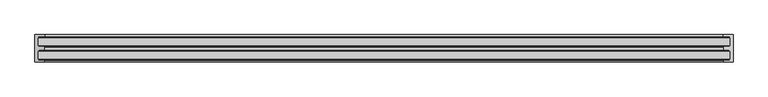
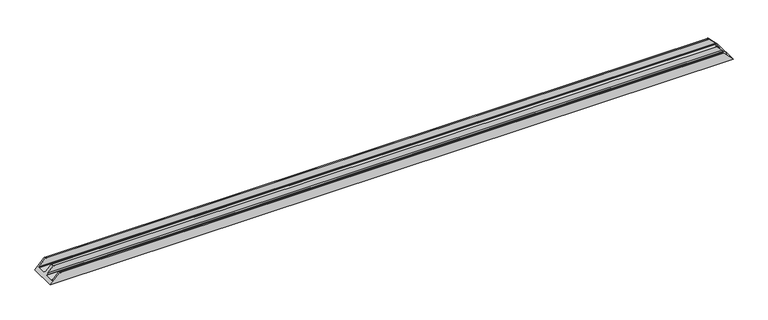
"""IFC4 building model written with IfcOpenShell, lengths in millimetres: proxy geometry, Weiku - Montante - Caixilho duplo 02.3.02.409 : Weiku - Montante - Caixilho duplo 02.3.02.409."""

from ifc_helpers import new_model, si_unit, frame, origin, place, context, project, spatial, ellipse_curve, source, transform, mapped, element, save
from ifc_brep_helpers import plane_surface, cylinder_surface, advanced_brep


def generic_models_4b76f5d9(model_context):
    return source(origin(), model_context, "Body", "AdvancedBrep", [
        advanced_brep(
        [(-1977.8, 9.8, 18.2), (-1940.1, 9.8, 55.9), (1940.1, 9.8, 55.9), (1977.8, 9.8, 18.2), (-1980.3000079, 63.85, 15.6999921), (-1980.3000079, 15.05, 15.6999921), (1980.3000079, 15.05, 15.6999921), (1980.3000079, 63.85, 15.6999921), (-1940.1000055, 69.1, 55.8999945), (-1972.1700642, 69.1, 23.8299358), (1972.1700642, 69.1, 23.8299358), (1940.1000055, 69.1, 55.8999945), (-1939.6000055, 86.65, 56.3999945), (-1939.6000055, 69.6, 56.3999945), (1939.6000055, 69.6, 56.3999945), (1939.6000055, 86.65, 56.3999945), (-1972.2236827, 87.15, 23.7763173), (-1940.1000055, 87.15, 55.8999945), (1940.1000055, 87.15, 55.8999945), (1972.2236827, 87.15, 23.7763173), (-1996.0, 156.2000166, 0.0), (1996.0, 156.2000166, 0.0), (1996.0, 0.0, 0.0), (-1996.0, 0.0, 0.0), (1940.1, 0.0, 55.9), (-1940.1, 0.0, 55.9), (-1939.6, 9.3, 56.4), (-1939.6, 0.5, 56.4), (1939.6, 0.5, 56.4), (1939.6, 9.3, 56.4), (-1977.8, 15.05, 18.2), (-1977.8, 63.85, 18.2), (-1977.8000178, 92.3500166, 18.1999822), (-1980.3000079, 92.3500166, 15.6999921), (-1980.3000079, 141.1500166, 15.6999921), (-1977.8, 141.1500166, 18.2), (-1977.8, 146.4000166, 18.2), (-1940.1, 146.4000166, 55.9), (-1939.6, 146.9000166, 56.4), (-1939.6, 155.7000166, 56.4), (-1940.1, 156.2000166, 55.9), (1940.1, 156.2000166, 55.9), (1939.6, 155.7000166, 56.4), (1939.6, 146.9000166, 56.4), (1940.1, 146.4000166, 55.9), (1977.8, 146.4000166, 18.2), (1977.8, 141.1500166, 18.2), (1980.3000079, 141.1500166, 15.6999921), (1980.3000079, 92.3500166, 15.6999921), (1977.8000178, 92.3500166, 18.1999822), (1977.8, 63.85, 18.2), (1977.8, 15.05, 18.2)],
        [
            (0, 1),
            (1, 2),
            (2, 3),
            (3, 0),
            (4, 5),
            (5, 6),
            (6, 7),
            (7, 4),
            (8, 9),
            (9, 10),
            (10, 11),
            (11, 8),
            (12, 13),
            (13, 14),
            (14, 15),
            (15, 12),
            (16, 17),
            (17, 18),
            (18, 19),
            (19, 16),
            (20, 21),
            (21, 22),
            (22, 23),
            (23, 20),
            (22, 24),
            (24, 25),
            (25, 23),
            (26, 27),
            (27, 28),
            (28, 29),
            (29, 26),
            (0, 30),
            (30, 5),
            (4, 31),
            (31, 9),
            (8, 13, ellipse_curve(frame((-1940.1000055, 69.6, 55.8999945), z_axis=(-0.7071067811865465, 0.0, 0.7071067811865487), x_axis=(-0.7071067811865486, 0.0, -0.7071067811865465)), 0.7071068, 0.5)),
            (12, 17, ellipse_curve(frame((-1940.1000055, 86.65, 55.8999945), z_axis=(-0.7071067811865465, 0.0, 0.7071067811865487), x_axis=(-0.7071067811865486, 0.0, -0.7071067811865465)), 0.7071068, 0.5)),
            (16, 32),
            (32, 33),
            (33, 34),
            (34, 35),
            (35, 36),
            (36, 37),
            (37, 38, ellipse_curve(frame((-1940.1, 146.9000166, 55.9), z_axis=(-0.7071067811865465, 0.0, 0.7071067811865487), x_axis=(-0.7071067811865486, 0.0, -0.7071067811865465)), 0.7071068, 0.5)),
            (38, 39),
            (39, 40, ellipse_curve(frame((-1940.1, 155.7000166, 55.9), z_axis=(-0.7071067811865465, 0.0, 0.7071067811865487), x_axis=(-0.7071067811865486, 0.0, -0.7071067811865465)), 0.7071068, 0.5)),
            (40, 20),
            (25, 27, ellipse_curve(frame((-1940.1, 0.5, 55.9), z_axis=(-0.7071067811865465, 0.0, 0.7071067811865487), x_axis=(-0.7071067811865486, 0.0, -0.7071067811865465)), 0.7071068, 0.5)),
            (26, 1, ellipse_curve(frame((-1940.1, 9.3, 55.9), z_axis=(-0.7071067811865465, 0.0, 0.7071067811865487), x_axis=(-0.7071067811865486, 0.0, -0.7071067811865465)), 0.7071068, 0.5)),
            (2, 29, ellipse_curve(frame((1940.1, 9.3, 55.9), z_axis=(0.7071067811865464, 0.0, 0.7071067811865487), x_axis=(-0.7071067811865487, 0.0, 0.7071067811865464)), 0.7071068, 0.5)),
            (28, 24, ellipse_curve(frame((1940.1, 0.5, 55.9), z_axis=(0.7071067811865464, 0.0, 0.7071067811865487), x_axis=(-0.7071067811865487, 0.0, 0.7071067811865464)), 0.7071068, 0.5)),
            (21, 41),
            (41, 42, ellipse_curve(frame((1940.1, 155.7000166, 55.9), z_axis=(0.7071067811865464, 0.0, 0.7071067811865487), x_axis=(-0.7071067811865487, 0.0, 0.7071067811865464)), 0.7071068, 0.5)),
            (42, 43),
            (43, 44, ellipse_curve(frame((1940.1, 146.9000166, 55.9), z_axis=(0.7071067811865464, 0.0, 0.7071067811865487), x_axis=(-0.7071067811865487, 0.0, 0.7071067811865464)), 0.7071068, 0.5)),
            (44, 45),
            (45, 46),
            (46, 47),
            (47, 48),
            (48, 49),
            (49, 19),
            (18, 15, ellipse_curve(frame((1940.1000055, 86.65, 55.8999945), z_axis=(0.7071067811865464, 0.0, 0.7071067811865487), x_axis=(-0.7071067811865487, 0.0, 0.7071067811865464)), 0.7071068, 0.5)),
            (14, 11, ellipse_curve(frame((1940.1000055, 69.6, 55.8999945), z_axis=(0.7071067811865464, 0.0, 0.7071067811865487), x_axis=(-0.7071067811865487, 0.0, 0.7071067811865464)), 0.7071068, 0.5)),
            (10, 50),
            (50, 7),
            (6, 51),
            (51, 3),
            (51, 30),
            (50, 31),
            (49, 32),
            (48, 33),
            (47, 34),
            (46, 35),
            (45, 36),
            (44, 37),
            (38, 43),
            (42, 39),
            (41, 40),
        ],
        [
            plane_surface(frame((-1996.0, 9.8, 55.9), z_axis=(0.0, 1.0, 0.0), x_axis=(1.0, 0.0, 0.0))),
            plane_surface(frame((-1996.0, 15.05, 15.6999921), z_axis=(0.0, 0.0, 1.0), x_axis=(1.0, 0.0, 0.0))),
            plane_surface(frame((-1996.0, 69.1, 23.8299358), z_axis=(0.0, -1.0, 0.0), x_axis=(1.0, 0.0, 0.0))),
            plane_surface(frame((-1996.0, 69.6, 56.3999945), z_axis=(0.0, 0.0, 1.0), x_axis=(1.0, 0.0, 0.0))),
            plane_surface(frame((-1996.0, 87.15, 55.8999945), z_axis=(0.0, 1.0, 0.0), x_axis=(1.0, 0.0, 0.0))),
            plane_surface(frame((-1996.0, 156.2000166, 0.0), z_axis=(0.0, 0.0, -1.0), x_axis=(1.0, 0.0, 0.0))),
            plane_surface(frame((-1996.0, 0.0, 0.0), z_axis=(0.0, -1.0, 0.0), x_axis=(1.0, 0.0, 0.0))),
            plane_surface(frame((-1996.0, 0.5, 56.4), z_axis=(0.0, 0.0, 1.0), x_axis=(1.0, 0.0, 0.0))),
            plane_surface(frame((-1996.0, 0.0, 0.0), z_axis=(-0.7071067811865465, 0.0, 0.7071067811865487), x_axis=(0.0, 1.0, 0.0))),
            plane_surface(frame((1936.0, 0.0, 60.0), z_axis=(0.7071067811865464, 0.0, 0.7071067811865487), x_axis=(0.0, 1.0, 0.0))),
            plane_surface(frame((-1996.0, 9.8, 18.2), z_axis=(0.0, 0.0, 1.0), x_axis=(1.0, 0.0, 0.0))),
            plane_surface(frame((-1996.0, 15.05, 18.2), z_axis=(0.0, 1.0, 0.0), x_axis=(1.0, 0.0, 0.0))),
            plane_surface(frame((-1996.0, 63.85, 15.6999921), z_axis=(0.0, -1.0, 0.0), x_axis=(1.0, 0.0, 0.0))),
            plane_surface(frame((-1996.0, 63.85, 18.2), z_axis=(0.0, -0.7313537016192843, 0.6819983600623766), x_axis=(1.0, 0.0, 0.0))),
            cylinder_surface(frame((-1996.0, 86.65, 55.8999945), z_axis=(-1.0, 0.0, 0.0), x_axis=(0.0, 1.0, 0.0)), 0.5),
            cylinder_surface(frame((-1996.0, 0.5, 55.9), z_axis=(-1.0, 0.0, 0.0), x_axis=(0.0, 1.0, 0.0)), 0.5),
            plane_surface(frame((-1996.0, 87.15, 23.7763173), z_axis=(0.0, 0.7313537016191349, 0.6819983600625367), x_axis=(1.0, 0.0, 0.0))),
            plane_surface(frame((-1996.0, 92.3500166, 18.1999822), z_axis=(0.0, 1.0, 0.0), x_axis=(1.0, 0.0, 0.0))),
            plane_surface(frame((-1996.0, 92.3500166, 15.6999921), z_axis=(0.0, 0.0, 1.0), x_axis=(1.0, 0.0, 0.0))),
            plane_surface(frame((-1996.0, 141.1500166, 15.6999921), z_axis=(0.0, -1.0, 0.0), x_axis=(1.0, 0.0, 0.0))),
            plane_surface(frame((-1996.0, 141.1500166, 18.2), z_axis=(0.0, 0.0, 1.0), x_axis=(1.0, 0.0, 0.0))),
            plane_surface(frame((-1996.0, 146.4000166, 18.2), z_axis=(0.0, -1.0, 0.0), x_axis=(1.0, 0.0, 0.0))),
            plane_surface(frame((-1996.0, 146.9000166, 56.4), z_axis=(0.0, 0.0, 1.0), x_axis=(1.0, 0.0, 0.0))),
            cylinder_surface(frame((-1996.0, 155.7000166, 55.9), z_axis=(-1.0, 0.0, 0.0), x_axis=(0.0, -1.0, 0.0)), 0.5),
            plane_surface(frame((-1996.0, 156.2000166, 55.9), z_axis=(0.0, 1.0, 0.0), x_axis=(1.0, 0.0, 0.0))),
            cylinder_surface(frame((-1996.0, 9.3, 55.9), z_axis=(-1.0, 0.0, 0.0), x_axis=(0.0, 1.0, 0.0)), 0.5),
            cylinder_surface(frame((-1996.0, 69.6, 55.8999945), z_axis=(-1.0, 0.0, 0.0), x_axis=(0.0, 1.0, 0.0)), 0.5),
            cylinder_surface(frame((-1996.0, 146.9000166, 55.9), z_axis=(-1.0, 0.0, 0.0), x_axis=(0.0, 1.0, 0.0)), 0.5),
        ],
        [
            (0, [[1, 2, 3, 4]]),
            (1, [[5, 6, 7, 8]]),
            (2, [[9, 10, 11, 12]]),
            (3, [[13, 14, 15, 16]]),
            (4, [[17, 18, 19, 20]]),
            (5, [[21, 22, 23, 24]]),
            (6, [[-23, 25, 26, 27]]),
            (7, [[28, 29, 30, 31]]),
            (8, [[-1, 32, 33, -5, 34, 35, -9, 36, -13, 37, -17, 38, 39, 40, 41, 42, 43, 44, 45, 46, 47, -24, -27, 48, -28, 49]]),
            (9, [[-3, 50, -30, 51, -25, -22, 52, 53, 54, 55, 56, 57, 58, 59, 60, 61, -19, 62, -15, 63, -11, 64, 65, -7, 66, 67]]),
            (10, [[-32, -4, -67, 68]]),
            (11, [[-33, -68, -66, -6]]),
            (12, [[-34, -8, -65, 69]]),
            (13, [[-35, -69, -64, -10]]),
            (14, [[-37, -16, -62, -18]]),
            (15, [[-48, -26, -51, -29]]),
            (16, [[-38, -20, -61, 70]]),
            (17, [[-39, -70, -60, 71]]),
            (18, [[-40, -71, -59, 72]]),
            (19, [[-41, -72, -58, 73]]),
            (20, [[-42, -73, -57, 74]]),
            (21, [[-43, -74, -56, 75]]),
            (22, [[-45, 76, -54, 77]]),
            (23, [[-46, -77, -53, 78]]),
            (24, [[-21, -47, -78, -52]]),
            (25, [[-49, -31, -50, -2]]),
            (26, [[-36, -12, -63, -14]]),
            (27, [[-44, -75, -55, -76]]),
        ],
    ),
    ])


if __name__ == "__main__":
    model = new_model("IFC4")
    model_context = context("Model", 3, world=origin())
    ifc_project = project(units=[si_unit("LENGTHUNIT", "METRE", prefix="MILLI")], contexts=[model_context])
    site = spatial("IfcSite", under=ifc_project)
    building = spatial("IfcBuilding", under=site)
    placement = place(None, origin())
    generic_models_shape = generic_models_4b76f5d9(model_context)
    element("IfcBuildingElementProxy", 1, Name="Weiku - Montante - Caixilho duplo 02.3.02.409 : Weiku - Montante - Caixilho duplo 02.3.02.409", ObjectType="Weiku - Montante - Caixilho duplo 02.3.02.409 : Weiku - Montante - Caixilho duplo 02.3.02.409", at=placement, inside=building, context=model_context, shape_type="MappedRepresentation", body=[
        mapped(generic_models_shape, transform((0.0, 0.0, 0.0), x_axis=(1.0, 0.0, 0.0), y_axis=(0.0, 1.0, 0.0), z_axis=(0.0, 0.0, 1.0))),
    ])
    save(model, "model.ifc")
